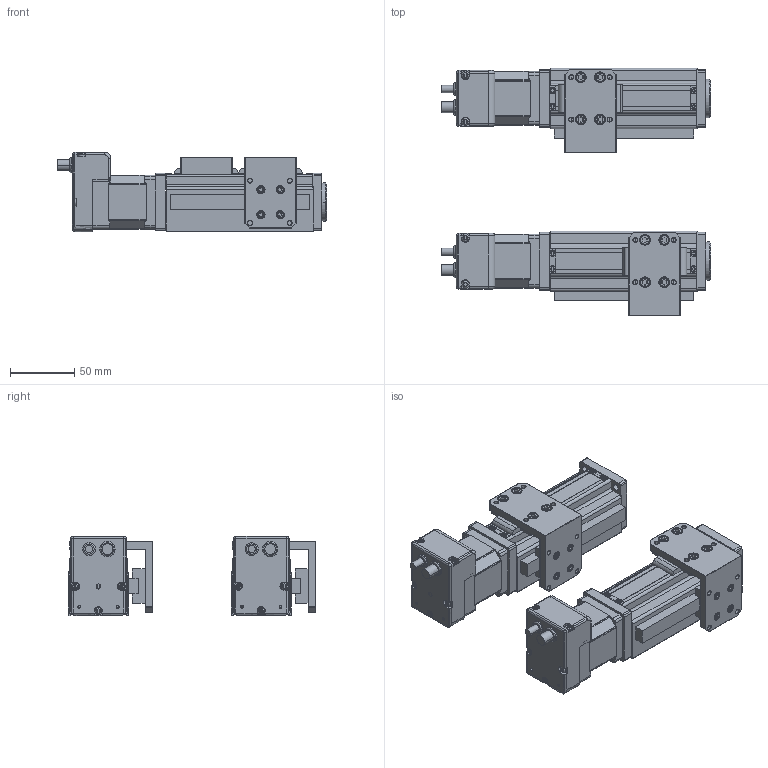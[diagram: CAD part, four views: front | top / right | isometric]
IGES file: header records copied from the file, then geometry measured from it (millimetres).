
Start section: IMSI TurboCAD v14.0
Global section: author: NULL; organization: NULL; date: 20100719.213310; units: millimetre
Bounding box: 210.5 x 192.89 x 62 mm (x, y, z)
Surface area: 207447.8 mm2 (no closed solid volume)
Topology: 0 solids, 0 shells, 3619 faces, 18484 edges, 18238 vertices
Faces by surface type: revolution 2260, extrusion 1339, bspline 20
